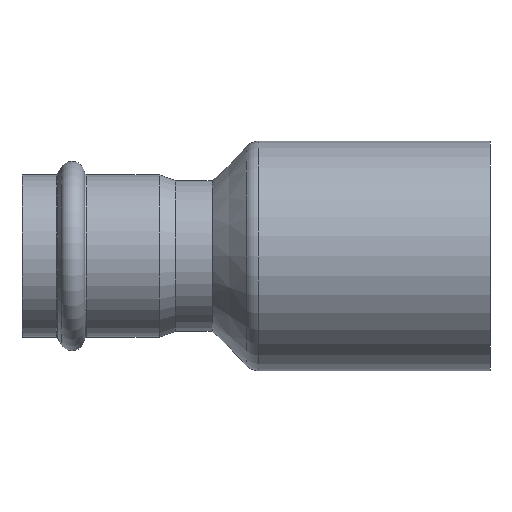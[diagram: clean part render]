
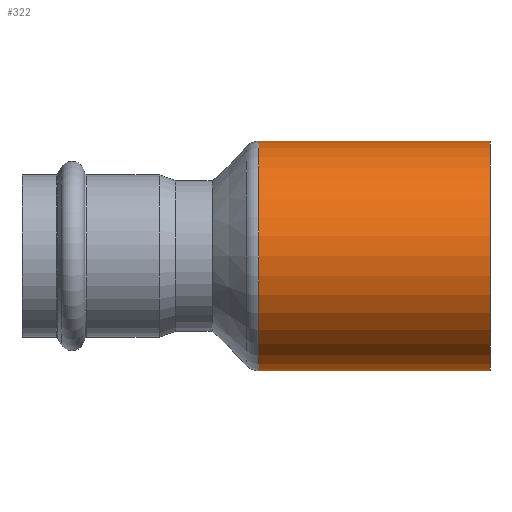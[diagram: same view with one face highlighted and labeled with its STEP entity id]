
A CAD part, front view. The second image highlights one B-rep face of the part: STEP entity #322.
In plain terms, the highlighted cylindrical face has radius 32 mm (diameter 64 mm), a full revolution.
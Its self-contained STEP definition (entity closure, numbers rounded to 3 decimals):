
#288=CARTESIAN_POINT('',(-64.429,32.,0.0));
#289=VERTEX_POINT('',#288);
#290=CARTESIAN_POINT('',(-64.429,0.0,0.0));
#291=DIRECTION('',(1.0,0.0,0.0));
#292=DIRECTION('',(0.0,1.0,0.0));
#293=AXIS2_PLACEMENT_3D('',#290,#291,#292);
#294=CIRCLE('',#293,32.);
#295=EDGE_CURVE('',#289,#289,#294,.T.);
#303=CARTESIAN_POINT('',(-32.214,0.0,0.0));
#304=DIRECTION('',(1.0,0.0,0.0));
#305=DIRECTION('',(0.0,1.0,0.0));
#306=AXIS2_PLACEMENT_3D('',#303,#304,#305);
#307=CYLINDRICAL_SURFACE('',#306,32.);
#308=CARTESIAN_POINT('',(0.,32.0,0.0));
#309=VERTEX_POINT('',#308);
#310=CARTESIAN_POINT('',(0.,0.0,0.0));
#311=DIRECTION('',(1.0,0.0,0.0));
#312=DIRECTION('',(0.0,1.0,0.0));
#313=AXIS2_PLACEMENT_3D('',#310,#311,#312);
#314=CIRCLE('',#313,32.0);
#315=EDGE_CURVE('',#309,#309,#314,.T.);
#316=ORIENTED_EDGE('',*,*,#315,.F.);
#317=EDGE_LOOP('',(#316));
#318=FACE_OUTER_BOUND('',#317,.T.);
#319=ORIENTED_EDGE('',*,*,#295,.T.);
#320=EDGE_LOOP('',(#319));
#321=FACE_BOUND('',#320,.T.);
#322=ADVANCED_FACE('',(#318,#321),#307,.T.);
